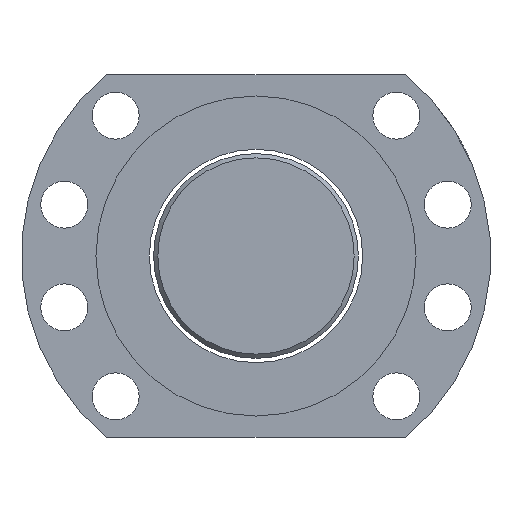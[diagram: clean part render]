
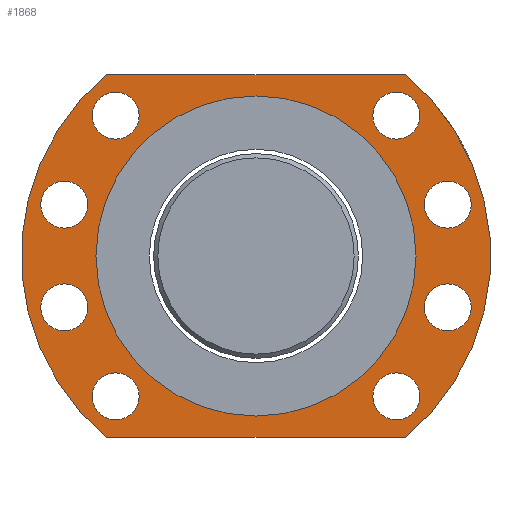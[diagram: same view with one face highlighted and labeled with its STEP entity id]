
A CAD part, left-side view. The second image highlights one B-rep face of the part: STEP entity #1868.
In plain terms, the highlighted planar face has unit normal (-1, 0, 0).
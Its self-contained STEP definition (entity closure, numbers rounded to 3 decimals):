
#19 = EDGE_CURVE ( 'NONE', #290, #290, #1046, .T. ) ;
#41 = EDGE_LOOP ( 'NONE', ( #1415 ) ) ;
#76 = CARTESIAN_POINT ( 'NONE',  ( -12.961, 35.177, -31.73 ) ) ;
#97 = FACE_BOUND ( 'NONE', #1614, .T. ) ;
#105 = AXIS2_PLACEMENT_3D ( 'NONE', #171, #2203, #1859 ) ;
#147 = VERTEX_POINT ( 'NONE', #204 ) ;
#150 = EDGE_CURVE ( 'NONE', #460, #460, #1835, .T. ) ;
#165 = AXIS2_PLACEMENT_3D ( 'NONE', #799, #811, #1198 ) ;
#171 = CARTESIAN_POINT ( 'NONE',  ( -12.961, -32.615, 43.65 ) ) ;
#204 = CARTESIAN_POINT ( 'NONE',  ( -12.961, -34.645, 53.27 ) ) ;
#278 = FACE_BOUND ( 'NONE', #41, .T. ) ;
#288 = FACE_BOUND ( 'NONE', #366, .T. ) ;
#290 = VERTEX_POINT ( 'NONE', #1598 ) ;
#292 = CIRCLE ( 'NONE', #1727, 5.5 ) ;
#313 = VERTEX_POINT ( 'NONE', #1052 ) ;
#329 = CARTESIAN_POINT ( 'NONE',  ( -12.961, -32.615, -22.111 ) ) ;
#332 = ORIENTED_EDGE ( 'NONE', *, *, #2144, .F. ) ;
#339 = AXIS2_PLACEMENT_3D ( 'NONE', #812, #1915, #970 ) ;
#349 = ORIENTED_EDGE ( 'NONE', *, *, #805, .T. ) ;
#366 = EDGE_LOOP ( 'NONE', ( #1465 ) ) ;
#381 = ORIENTED_EDGE ( 'NONE', *, *, #437, .T. ) ;
#390 = AXIS2_PLACEMENT_3D ( 'NONE', #698, #1626, #2357 ) ;
#437 = EDGE_CURVE ( 'NONE', #147, #905, #1955, .T. ) ;
#452 = DIRECTION ( 'NONE',  ( -1., 0., 0. ) ) ;
#460 = VERTEX_POINT ( 'NONE', #2122 ) ;
#471 = CIRCLE ( 'NONE', #1127, 55. ) ;
#487 = CARTESIAN_POINT ( 'NONE',  ( -12.961, -32.615, -16.611 ) ) ;
#569 = ORIENTED_EDGE ( 'NONE', *, *, #706, .T. ) ;
#673 = EDGE_CURVE ( 'NONE', #1970, #1970, #1857, .T. ) ;
#679 = CARTESIAN_POINT ( 'NONE',  ( -12.961, 45.182, 28.305 ) ) ;
#686 = DIRECTION ( 'NONE',  ( 1., 0., 0. ) ) ;
#698 = CARTESIAN_POINT ( 'NONE',  ( -12.961, 45.182, 22.805 ) ) ;
#706 = EDGE_CURVE ( 'NONE', #1590, #1590, #2247, .T. ) ;
#784 = DIRECTION ( 'NONE',  ( 0., 0., 1. ) ) ;
#799 = CARTESIAN_POINT ( 'NONE',  ( -12.961, 0.266, 10.77 ) ) ;
#805 = EDGE_CURVE ( 'NONE', #1776, #1776, #885, .T. ) ;
#808 = CIRCLE ( 'NONE', #2274, 5.5 ) ;
#811 = DIRECTION ( 'NONE',  ( -1., 0., 0. ) ) ;
#812 = CARTESIAN_POINT ( 'NONE',  ( -12.961, 0.266, 10.77 ) ) ;
#824 = FACE_BOUND ( 'NONE', #959, .T. ) ;
#842 = ORIENTED_EDGE ( 'NONE', *, *, #19, .T. ) ;
#849 = CIRCLE ( 'NONE', #339, 37.5 ) ;
#863 = EDGE_CURVE ( 'NONE', #905, #1860, #471, .T. ) ;
#885 = CIRCLE ( 'NONE', #1807, 5.5 ) ;
#888 = DIRECTION ( 'NONE',  ( 0., 0., 1. ) ) ;
#902 = DIRECTION ( 'NONE',  ( -1., 0., 0. ) ) ;
#905 = VERTEX_POINT ( 'NONE', #1243 ) ;
#959 = EDGE_LOOP ( 'NONE', ( #842 ) ) ;
#970 = DIRECTION ( 'NONE',  ( 0., 0., -1. ) ) ;
#971 = DIRECTION ( 'NONE',  ( 0., -1., 0. ) ) ;
#977 = CIRCLE ( 'NONE', #1522, 5.5 ) ;
#998 = DIRECTION ( 'NONE',  ( -1., 0., 0. ) ) ;
#1015 = EDGE_LOOP ( 'NONE', ( #349 ) ) ;
#1023 = ORIENTED_EDGE ( 'NONE', *, *, #1986, .T. ) ;
#1046 = CIRCLE ( 'NONE', #1123, 5.5 ) ;
#1052 = CARTESIAN_POINT ( 'NONE',  ( -12.961, 33.146, -16.611 ) ) ;
#1072 = DIRECTION ( 'NONE',  ( -1., 0., 0. ) ) ;
#1077 = DIRECTION ( 'NONE',  ( 0., 1., 0. ) ) ;
#1083 = CARTESIAN_POINT ( 'NONE',  ( -12.961, 0.266, 10.77 ) ) ;
#1100 = ORIENTED_EDGE ( 'NONE', *, *, #1227, .T. ) ;
#1102 = EDGE_CURVE ( 'NONE', #1937, #1937, #849, .T. ) ;
#1118 = CARTESIAN_POINT ( 'NONE',  ( -12.961, 33.146, 49.15 ) ) ;
#1123 = AXIS2_PLACEMENT_3D ( 'NONE', #2157, #1486, #1645 ) ;
#1127 = AXIS2_PLACEMENT_3D ( 'NONE', #1083, #902, #2153 ) ;
#1180 = CARTESIAN_POINT ( 'NONE',  ( -12.961, 33.146, -22.111 ) ) ;
#1198 = DIRECTION ( 'NONE',  ( 0., 0., 1. ) ) ;
#1227 = EDGE_CURVE ( 'NONE', #2380, #147, #1400, .T. ) ;
#1243 = CARTESIAN_POINT ( 'NONE',  ( -12.961, 35.177, 53.27 ) ) ;
#1261 = CARTESIAN_POINT ( 'NONE',  ( -12.961, -34.645, 53.27 ) ) ;
#1266 = DIRECTION ( 'NONE',  ( 1., 0., 0. ) ) ;
#1271 = CARTESIAN_POINT ( 'NONE',  ( -12.961, 45.182, 4.235 ) ) ;
#1283 = DIRECTION ( 'NONE',  ( 0., 0., 1. ) ) ;
#1286 = ORIENTED_EDGE ( 'NONE', *, *, #1102, .F. ) ;
#1300 = VECTOR ( 'NONE', #971, 1000. ) ;
#1303 = EDGE_CURVE ( 'NONE', #313, #313, #977, .T. ) ;
#1362 = FACE_OUTER_BOUND ( 'NONE', #1694, .T. ) ;
#1373 = CARTESIAN_POINT ( 'NONE',  ( -12.961, 45.182, -1.265 ) ) ;
#1374 = FACE_BOUND ( 'NONE', #1015, .T. ) ;
#1385 = PLANE ( 'NONE',  #165 ) ;
#1396 = CARTESIAN_POINT ( 'NONE',  ( -12.961, -44.65, 4.235 ) ) ;
#1400 = CIRCLE ( 'NONE', #1709, 55. ) ;
#1408 = DIRECTION ( 'NONE',  ( -1., 0., 0. ) ) ;
#1415 = ORIENTED_EDGE ( 'NONE', *, *, #1303, .F. ) ;
#1427 = AXIS2_PLACEMENT_3D ( 'NONE', #1451, #1266, #1283 ) ;
#1440 = DIRECTION ( 'NONE',  ( 0., 0., 1. ) ) ;
#1449 = VECTOR ( 'NONE', #1077, 1000. ) ;
#1451 = CARTESIAN_POINT ( 'NONE',  ( -12.961, -44.65, -1.265 ) ) ;
#1465 = ORIENTED_EDGE ( 'NONE', *, *, #150, .T. ) ;
#1486 = DIRECTION ( 'NONE',  ( 1., 0., 0. ) ) ;
#1522 = AXIS2_PLACEMENT_3D ( 'NONE', #1180, #998, #784 ) ;
#1564 = EDGE_LOOP ( 'NONE', ( #1998 ) ) ;
#1590 = VERTEX_POINT ( 'NONE', #1396 ) ;
#1598 = CARTESIAN_POINT ( 'NONE',  ( -12.961, -44.65, 28.305 ) ) ;
#1607 = ORIENTED_EDGE ( 'NONE', *, *, #863, .T. ) ;
#1609 = VERTEX_POINT ( 'NONE', #1118 ) ;
#1614 = EDGE_LOOP ( 'NONE', ( #569 ) ) ;
#1626 = DIRECTION ( 'NONE',  ( -1., 0., 0. ) ) ;
#1634 = EDGE_CURVE ( 'NONE', #1609, #1609, #808, .T. ) ;
#1645 = DIRECTION ( 'NONE',  ( 0., 0., 1. ) ) ;
#1694 = EDGE_LOOP ( 'NONE', ( #1607, #1023, #1100, #381 ) ) ;
#1709 = AXIS2_PLACEMENT_3D ( 'NONE', #1906, #452, #1722 ) ;
#1722 = DIRECTION ( 'NONE',  ( 0., 0., -1. ) ) ;
#1727 = AXIS2_PLACEMENT_3D ( 'NONE', #1373, #1408, #2134 ) ;
#1752 = FACE_BOUND ( 'NONE', #2197, .T. ) ;
#1776 = VERTEX_POINT ( 'NONE', #487 ) ;
#1807 = AXIS2_PLACEMENT_3D ( 'NONE', #329, #686, #888 ) ;
#1818 = EDGE_LOOP ( 'NONE', ( #1286 ) ) ;
#1835 = CIRCLE ( 'NONE', #105, 5.5 ) ;
#1857 = CIRCLE ( 'NONE', #390, 5.5 ) ;
#1859 = DIRECTION ( 'NONE',  ( 0., 0., 1. ) ) ;
#1860 = VERTEX_POINT ( 'NONE', #76 ) ;
#1868 = ADVANCED_FACE ( 'NONE', ( #824, #1374, #278, #1936, #2295, #1362, #1945, #97, #1752, #288 ), #1385, .T. ) ;
#1891 = CARTESIAN_POINT ( 'NONE',  ( -12.961, 35.177, -31.73 ) ) ;
#1906 = CARTESIAN_POINT ( 'NONE',  ( -12.961, 0.266, 10.77 ) ) ;
#1915 = DIRECTION ( 'NONE',  ( -1., 0., 0. ) ) ;
#1936 = FACE_BOUND ( 'NONE', #1564, .T. ) ;
#1937 = VERTEX_POINT ( 'NONE', #2319 ) ;
#1945 = FACE_BOUND ( 'NONE', #1818, .T. ) ;
#1947 = CARTESIAN_POINT ( 'NONE',  ( -12.961, -34.645, -31.73 ) ) ;
#1955 = LINE ( 'NONE', #1261, #1449 ) ;
#1970 = VERTEX_POINT ( 'NONE', #679 ) ;
#1986 = EDGE_CURVE ( 'NONE', #1860, #2380, #2296, .T. ) ;
#1998 = ORIENTED_EDGE ( 'NONE', *, *, #673, .F. ) ;
#2122 = CARTESIAN_POINT ( 'NONE',  ( -12.961, -32.615, 49.15 ) ) ;
#2134 = DIRECTION ( 'NONE',  ( 0., 0., 1. ) ) ;
#2144 = EDGE_CURVE ( 'NONE', #2351, #2351, #292, .T. ) ;
#2152 = EDGE_LOOP ( 'NONE', ( #332 ) ) ;
#2153 = DIRECTION ( 'NONE',  ( 0., 0., -1. ) ) ;
#2157 = CARTESIAN_POINT ( 'NONE',  ( -12.961, -44.65, 22.805 ) ) ;
#2176 = ORIENTED_EDGE ( 'NONE', *, *, #1634, .F. ) ;
#2197 = EDGE_LOOP ( 'NONE', ( #2176 ) ) ;
#2203 = DIRECTION ( 'NONE',  ( 1., 0., 0. ) ) ;
#2247 = CIRCLE ( 'NONE', #1427, 5.5 ) ;
#2274 = AXIS2_PLACEMENT_3D ( 'NONE', #2349, #1072, #1440 ) ;
#2295 = FACE_BOUND ( 'NONE', #2152, .T. ) ;
#2296 = LINE ( 'NONE', #1891, #1300 ) ;
#2319 = CARTESIAN_POINT ( 'NONE',  ( -12.961, 0.266, -26.73 ) ) ;
#2349 = CARTESIAN_POINT ( 'NONE',  ( -12.961, 33.146, 43.65 ) ) ;
#2351 = VERTEX_POINT ( 'NONE', #1271 ) ;
#2357 = DIRECTION ( 'NONE',  ( 0., 0., 1. ) ) ;
#2380 = VERTEX_POINT ( 'NONE', #1947 ) ;
